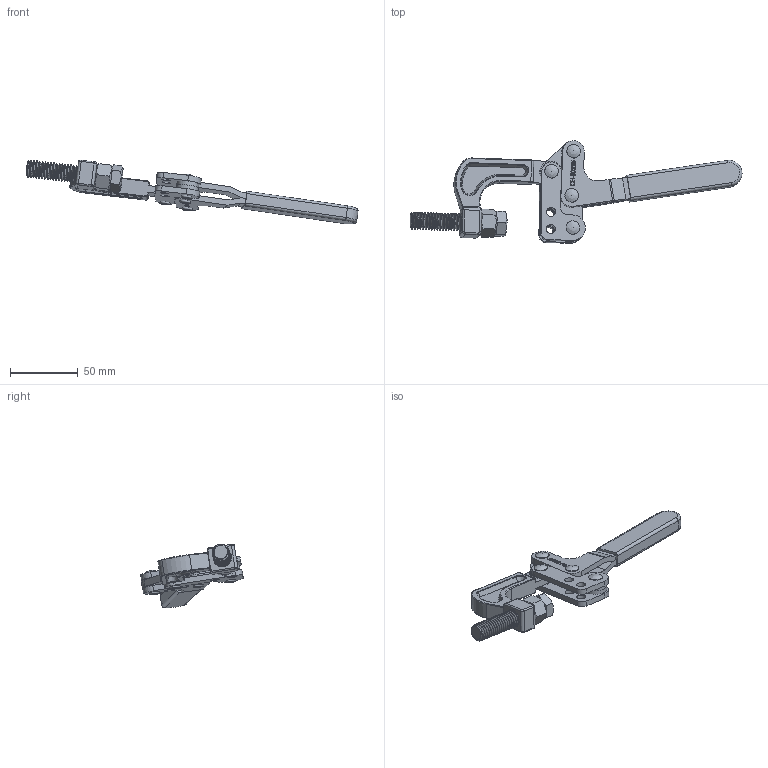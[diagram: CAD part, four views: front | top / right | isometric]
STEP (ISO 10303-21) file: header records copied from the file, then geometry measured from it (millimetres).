
FILE_DESCRIPTION(/* description */ ('STEP AP203'),/* implementation_level */ '2;1');
FILE_NAME(/* name */ 'E:\SERWER_ZAPAS\F clamp\CH-80325\CH-80325_ZAMKNIETY.stp',/* time_stamp */ '2019-02-01T10:54:19+01:00',/* author */ ('Admin'),/* organization */ ('Î¢ÈíÖÐ¹ú'),/* preprocessor_version */ 'ST-DEVELOPER v17.2',/* originating_system */ 'Autodesk Inventor 2019',/* authorisation */ '');
FILE_SCHEMA (('AUTOMOTIVE_DESIGN { 1 0 10303 214 3 1 1 }'));
Length unit declared in the file: millimetre
Products named in the file (9): CH-80325_ZAMKNIETY; 1-2-12X2 1-2_Ä¬ÈÏ; 80325-01 STRAIGHT BASE_Ä¬ÈÏ; 80325-05_Ä¬ÈÏ; 80379-02 BAR_Ä¬ÈÏ; 1-2 NUT_Ä¬ÈÏ; 80379-06; 80379-04 CONNECTING-PLATE_Ä¬ÈÏ; 80325-03 HANDLE_Ä¬ÈÏ
Assembly tree (12 placements, depth 2):
  CH-80325_ZAMKNIETY
    80379-06  x4
    1-2-12X2 1-2_Ä¬ÈÏ
    80325-01 STRAIGHT BASE_Ä¬ÈÏ
    80325-05_Ä¬ÈÏ
    80379-02 BAR_Ä¬ÈÏ
    1-2 NUT_Ä¬ÈÏ
    80379-04 CONNECTING-PLATE_Ä¬ÈÏ  x2
    80325-03 HANDLE_Ä¬ÈÏ
Bounding box: 244.89 x 75.69 x 47.07 mm (x, y, z)
Volume: 69177.3 mm3; surface area: 48967 mm2
Topology: 14 solids, 14 shells, 699 faces, 1919 edges, 1277 vertices
Faces by surface type: plane 243, bspline 217, cylinder 176, torus 39, cone 24
Full cylindrical faces by diameter (mm): 0.829 x1, 0.94 x1, 6.4 x18, 6.7 x4, 9.826 x27, 10 x4, 10.5 x4, 10.7 x4, 12.7 x27, 13.6 x6
Entity records: 37725 total; most frequent: CARTESIAN_POINT 21928, ORIENTED_EDGE 3656, DIRECTION 2490, EDGE_CURVE 1828, VERTEX_POINT 1213, LINE 874, VECTOR 874, AXIS2_PLACEMENT_3D 808
